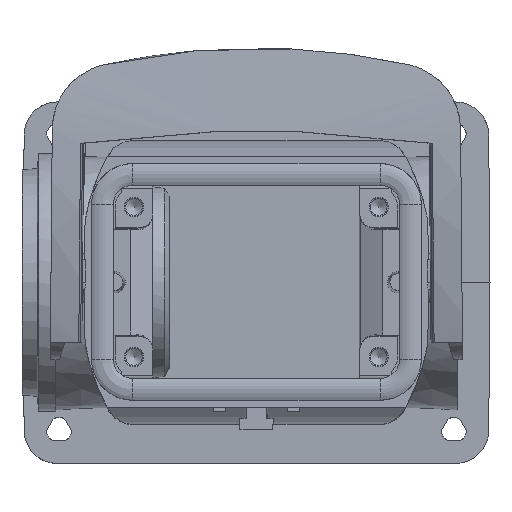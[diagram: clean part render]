
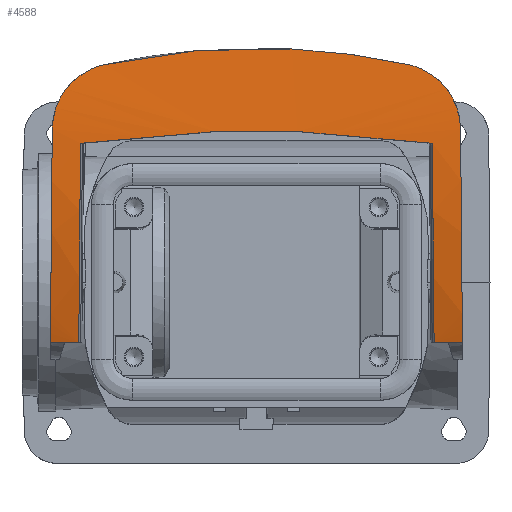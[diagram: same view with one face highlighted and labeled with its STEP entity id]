
A CAD part, top view. The second image highlights one B-rep face of the part: STEP entity #4588.
In plain terms, the highlighted cylindrical face has radius 120 mm (diameter 240 mm), a partial arc.
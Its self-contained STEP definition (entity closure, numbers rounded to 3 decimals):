
#4588=ADVANCED_FACE('',(#5393),#5224,.T.);
#5224=CYLINDRICAL_SURFACE('',#17768,120.);
#5393=FACE_OUTER_BOUND('',#5971,.T.);
#5971=EDGE_LOOP('',(#7024,#7025,#7026,#7027,#7028,#7029,#7030,#7031,#7032,
#7033,#7034,#7035,#7036,#7037));
#6708=ELLIPSE('',#17761,120.005,120.);
#6709=ELLIPSE('',#17762,120.005,120.);
#6710=ELLIPSE('',#17764,120.005,120.);
#6711=ELLIPSE('',#17765,1376.846,120.);
#6712=ELLIPSE('',#17766,1376.846,120.);
#6713=ELLIPSE('',#17767,120.005,120.);
#7024=ORIENTED_EDGE('',*,*,#11652,.T.);
#7025=ORIENTED_EDGE('',*,*,#11653,.F.);
#7026=ORIENTED_EDGE('',*,*,#11654,.T.);
#7027=ORIENTED_EDGE('',*,*,#11655,.T.);
#7028=ORIENTED_EDGE('',*,*,#11656,.F.);
#7029=ORIENTED_EDGE('',*,*,#11657,.F.);
#7030=ORIENTED_EDGE('',*,*,#11658,.F.);
#7031=ORIENTED_EDGE('',*,*,#11659,.F.);
#7032=ORIENTED_EDGE('',*,*,#11660,.T.);
#7033=ORIENTED_EDGE('',*,*,#11661,.F.);
#7034=ORIENTED_EDGE('',*,*,#11662,.F.);
#7035=ORIENTED_EDGE('',*,*,#11663,.F.);
#7036=ORIENTED_EDGE('',*,*,#11664,.T.);
#7037=ORIENTED_EDGE('',*,*,#11665,.T.);
#10469=VERTEX_POINT('',#22931);
#10470=VERTEX_POINT('',#22932);
#10471=VERTEX_POINT('',#22934);
#10472=VERTEX_POINT('',#22936);
#10473=VERTEX_POINT('',#22943);
#10474=VERTEX_POINT('',#22952);
#10475=VERTEX_POINT('',#22959);
#10476=VERTEX_POINT('',#22961);
#10477=VERTEX_POINT('',#22963);
#10478=VERTEX_POINT('',#22965);
#10479=VERTEX_POINT('',#22967);
#10480=VERTEX_POINT('',#22969);
#10481=VERTEX_POINT('',#22971);
#10482=VERTEX_POINT('',#22973);
#11652=EDGE_CURVE('',#10469,#10470,#14486,.T.);
#11653=EDGE_CURVE('',#10471,#10470,#13514,.T.);
#11654=EDGE_CURVE('',#10471,#10472,#6708,.T.);
#11655=EDGE_CURVE('',#10472,#10473,#13290,.T.);
#11656=EDGE_CURVE('',#10474,#10473,#13291,.T.);
#11657=EDGE_CURVE('',#10475,#10474,#13292,.T.);
#11658=EDGE_CURVE('',#10476,#10475,#6709,.T.);
#11659=EDGE_CURVE('',#10477,#10476,#13515,.T.);
#11660=EDGE_CURVE('',#10477,#10478,#14487,.T.);
#11661=EDGE_CURVE('',#10479,#10478,#6710,.T.);
#11662=EDGE_CURVE('',#10480,#10479,#6711,.T.);
#11663=EDGE_CURVE('',#10481,#10480,#14488,.T.);
#11664=EDGE_CURVE('',#10481,#10482,#6712,.T.);
#11665=EDGE_CURVE('',#10482,#10469,#6713,.T.);
#13290=B_SPLINE_CURVE_WITH_KNOTS('',3,(#22937,#22938,#22939,#22940,#22941,
#22942),.UNSPECIFIED.,.F.,.F.,(4,2,4),(0.,0.5,1.),.UNSPECIFIED.);
#13291=B_SPLINE_CURVE_WITH_KNOTS('',3,(#22944,#22945,#22946,#22947,#22948,
#22949,#22950,#22951),.UNSPECIFIED.,.F.,.F.,(4,2,2,4),(0.,0.5,0.75,1.),
 .UNSPECIFIED.);
#13292=B_SPLINE_CURVE_WITH_KNOTS('',3,(#22953,#22954,#22955,#22956,#22957,
#22958),.UNSPECIFIED.,.F.,.F.,(4,2,4),(0.,0.5,1.),.UNSPECIFIED.);
#13514=CIRCLE('',#17760,120.);
#13515=CIRCLE('',#17763,120.);
#14486=LINE('',#22930,#15694);
#14487=LINE('',#22964,#15695);
#14488=LINE('',#22970,#15696);
#15694=VECTOR('',#19177,1.);
#15695=VECTOR('',#19186,1.);
#15696=VECTOR('',#19191,1.);
#17760=AXIS2_PLACEMENT_3D('',#22933,#19178,#19179);
#17761=AXIS2_PLACEMENT_3D('',#22935,#19180,#19181);
#17762=AXIS2_PLACEMENT_3D('',#22960,#19182,#19183);
#17763=AXIS2_PLACEMENT_3D('',#22962,#19184,#19185);
#17764=AXIS2_PLACEMENT_3D('',#22966,#19187,#19188);
#17765=AXIS2_PLACEMENT_3D('',#22968,#19189,#19190);
#17766=AXIS2_PLACEMENT_3D('',#22972,#19192,#19193);
#17767=AXIS2_PLACEMENT_3D('',#22974,#19194,#19195);
#17768=AXIS2_PLACEMENT_3D('',#22975,#19196,#19197);
#19177=DIRECTION('',(1.,0.,0.));
#19178=DIRECTION('',(1.,0.,0.));
#19179=DIRECTION('',(0.,0.,1.));
#19180=DIRECTION('',(-1.,-0.009,0.));
#19181=DIRECTION('',(0.009,-1.,0.));
#19182=DIRECTION('',(-1.,0.009,0.));
#19183=DIRECTION('',(0.009,1.,0.));
#19184=DIRECTION('',(-1.,0.,0.));
#19185=DIRECTION('',(0.,0.,-1.));
#19186=DIRECTION('',(1.,0.,0.));
#19187=DIRECTION('',(1.,-0.009,0.));
#19188=DIRECTION('',(0.009,1.,0.));
#19189=DIRECTION('',(0.087,-0.996,0.));
#19190=DIRECTION('',(0.996,0.087,0.));
#19191=DIRECTION('',(-1.,0.,0.));
#19192=DIRECTION('',(0.087,0.996,0.));
#19193=DIRECTION('',(0.996,-0.087,0.));
#19194=DIRECTION('',(1.,0.009,0.));
#19195=DIRECTION('',(0.009,-1.,0.));
#19196=DIRECTION('',(1.,0.,0.));
#19197=DIRECTION('',(0.,0.,1.));
#22930=CARTESIAN_POINT('',(37.,-11.,25.743));
#22931=CARTESIAN_POINT('',(31.946,-11.,25.743));
#22932=CARTESIAN_POINT('',(37.,-11.,25.743));
#22933=CARTESIAN_POINT('',(37.,23.157,-89.293));
#22934=CARTESIAN_POINT('',(37.,-5.729,27.178));
#22935=CARTESIAN_POINT('',(36.748,23.157,-89.293));
#22936=CARTESIAN_POINT('',(36.711,27.42,30.631));
#22937=CARTESIAN_POINT('',(36.711,27.42,30.631));
#22938=CARTESIAN_POINT('',(36.687,30.129,30.535));
#22939=CARTESIAN_POINT('',(35.748,32.746,30.342));
#22940=CARTESIAN_POINT('',(32.357,36.95,29.93));
#22941=CARTESIAN_POINT('',(30.,38.422,29.733));
#22942=CARTESIAN_POINT('',(27.358,39.02,29.654));
#22943=CARTESIAN_POINT('',(27.358,39.02,29.654));
#22944=CARTESIAN_POINT('',(-27.358,39.02,29.654));
#22945=CARTESIAN_POINT('',(-18.383,41.05,29.383));
#22946=CARTESIAN_POINT('',(-9.183,42.001,29.218));
#22947=CARTESIAN_POINT('',(4.611,42.,29.218));
#22948=CARTESIAN_POINT('',(9.214,41.756,29.258));
#22949=CARTESIAN_POINT('',(18.342,40.773,29.408));
#22950=CARTESIAN_POINT('',(22.87,40.035,29.518));
#22951=CARTESIAN_POINT('',(27.358,39.02,29.654));
#22952=CARTESIAN_POINT('',(-27.358,39.02,29.654));
#22953=CARTESIAN_POINT('',(-36.711,27.42,30.631));
#22954=CARTESIAN_POINT('',(-36.687,30.129,30.535));
#22955=CARTESIAN_POINT('',(-35.748,32.744,30.342));
#22956=CARTESIAN_POINT('',(-32.359,36.949,29.93));
#22957=CARTESIAN_POINT('',(-30.,38.422,29.733));
#22958=CARTESIAN_POINT('',(-27.358,39.02,29.654));
#22959=CARTESIAN_POINT('',(-36.711,27.42,30.631));
#22960=CARTESIAN_POINT('',(-36.748,23.157,-89.293));
#22961=CARTESIAN_POINT('',(-37.,-5.729,27.178));
#22962=CARTESIAN_POINT('',(-37.,23.157,-89.293));
#22963=CARTESIAN_POINT('',(-37.,-11.,25.743));
#22964=CARTESIAN_POINT('',(-37.,-11.,25.743));
#22965=CARTESIAN_POINT('',(-31.946,-11.,25.743));
#22966=CARTESIAN_POINT('',(-31.648,23.157,-89.293));
#22967=CARTESIAN_POINT('',(-31.633,24.879,30.694));
#22968=CARTESIAN_POINT('',(-51.31,23.157,-89.293));
#22969=CARTESIAN_POINT('',(-7.39,27.,30.645));
#22970=CARTESIAN_POINT('',(-7.39,27.,30.645));
#22971=CARTESIAN_POINT('',(7.39,27.,30.645));
#22972=CARTESIAN_POINT('',(51.31,23.157,-89.293));
#22973=CARTESIAN_POINT('',(31.633,24.879,30.694));
#22974=CARTESIAN_POINT('',(31.648,23.157,-89.293));
#22975=CARTESIAN_POINT('',(-37.,23.157,-89.293));
